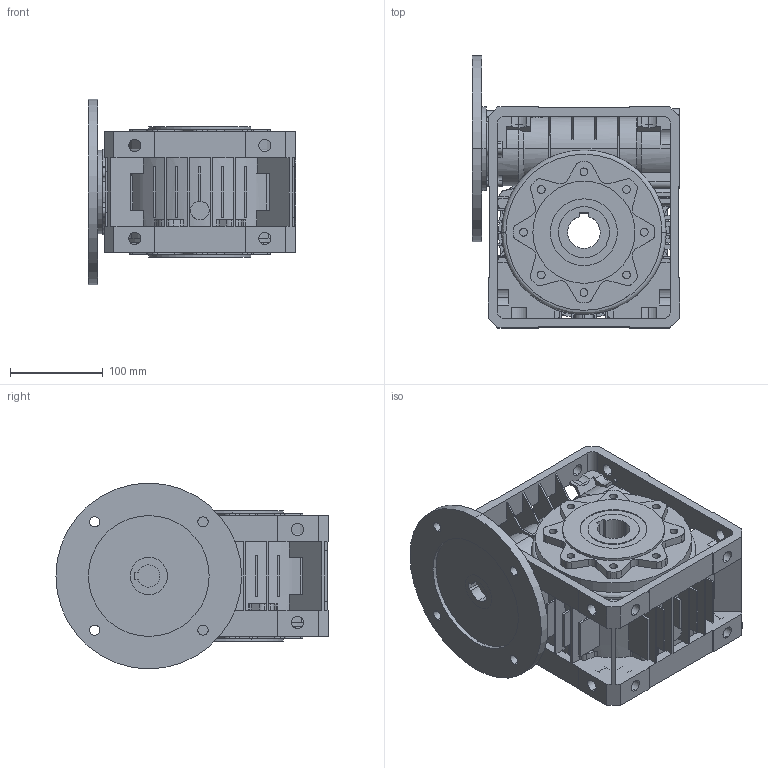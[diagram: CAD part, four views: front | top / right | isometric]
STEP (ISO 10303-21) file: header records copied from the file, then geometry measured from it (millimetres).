
FILE_DESCRIPTION (( 'STEP AP214' ), '1' );
FILE_NAME ('MU 90 NO PAM90B5 NO 0 D35 STANDARD 0 0.step', '2019-01-29T09:45:34', ( '' ), ( '' ), 'SwSTEP 2.0', 'SolidWorks 2015', '' );
FILE_SCHEMA (( 'AUTOMOTIVE_DESIGN' ));
Length unit declared in the file: millimetre
Products named in the file (7): INPUT SHAFT MU 90_F.24; FLANGE FP U-MU 90 - 20089360; BODY U-MU 90 - 20088783; PAM MU 90_PAM 90 B5; MU 90 NO PAM90B5 NO 0 D35 STANDARD 0 0; FAM MU 90_D.200; OUTPUT SHAFT U-MU_U-MU 90 D.35
Assembly tree (6 placements, depth 3):
  MU 90 NO PAM90B5 NO 0 D35 STANDARD 0 0
    BODY U-MU 90 - 20088783
    FLANGE FP U-MU 90 - 20089360
    OUTPUT SHAFT U-MU_U-MU 90 D.35
    PAM MU 90_PAM 90 B5
      FAM MU 90_D.200
      INPUT SHAFT MU 90_F.24
Bounding box: 223 x 293 x 200 mm (x, y, z)
Volume: 4527819.3 mm3; surface area: 611111.4 mm2
Topology: 5 solids, 6 shells, 1049 faces, 3058 edges, 2022 vertices
Faces by surface type: plane 498, cylinder 493, cone 46, bspline 12
Entity records: 39603 total; most frequent: CARTESIAN_POINT 7351, DIRECTION 6159, ORIENTED_EDGE 6116, EDGE_CURVE 3058, AXIS2_PLACEMENT_3D 2203, VERTEX_POINT 2022, LINE 1753, VECTOR 1753
